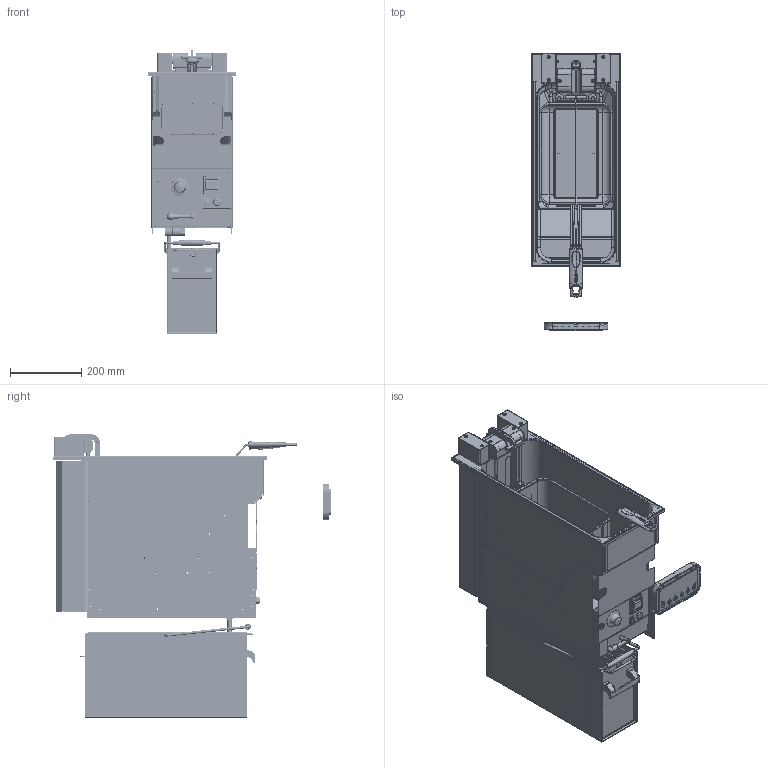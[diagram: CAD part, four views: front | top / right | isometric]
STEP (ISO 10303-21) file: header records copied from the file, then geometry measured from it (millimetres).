
FILE_DESCRIPTION(/* description */ (''),/* implementation_level */ '2;1');
FILE_NAME(/* name */ 'CORE SMART 250 E',/* time_stamp */ '2025-10-22T13:25:37+02:00',/* author */ (''),/* organization */ (''),/* preprocessor_version */ 'ST-DEVELOPER v19.2',/* originating_system */ 'Rhino 8.23',/* authorisation */ '');
FILE_SCHEMA (('CONFIG_CONTROL_DESIGN'));
Products named in the file (1): Document
Bounding box: 248 x 778.5 x 795.9 mm (x, y, z)
Volume: 3559565.7 mm3; surface area: 4873985.7 mm2
Topology: 88 solids, 122 shells, 5091 faces, 13110 edges, 8275 vertices
Faces by surface type: cylinder 1850, plane 1803, bspline 1438
Full cylindrical faces by diameter (mm): 27 x1
Entity records: 262842 total; most frequent: CARTESIAN_POINT 157457, ORIENTED_EDGE 25890, EDGE_CURVE 13072, DIRECTION 12541, VERTEX_POINT 8275, AXIS2_PLACEMENT_3D 8097, B_SPLINE_CURVE_WITH_KNOTS 8020, EDGE_LOOP 5601
